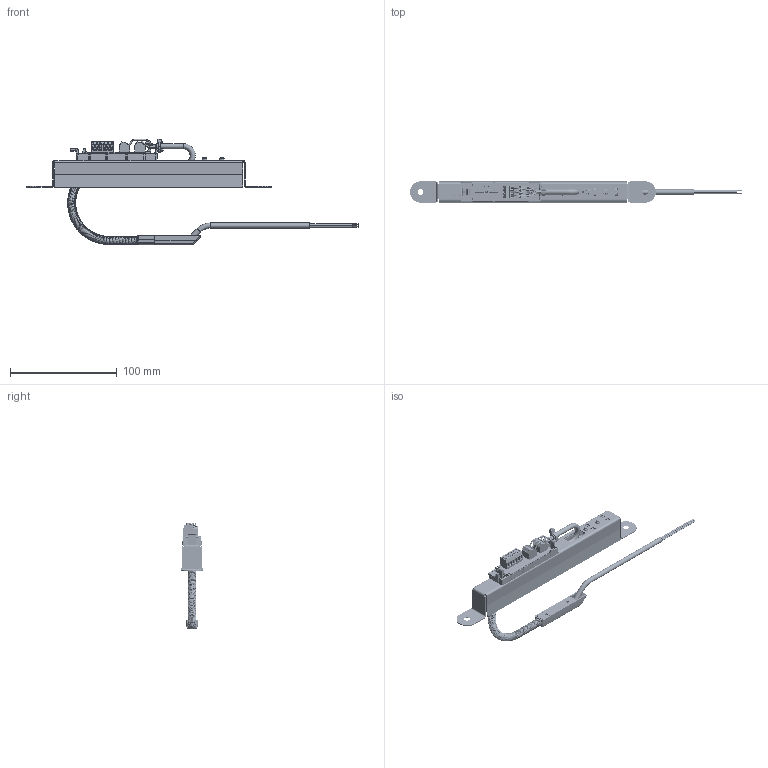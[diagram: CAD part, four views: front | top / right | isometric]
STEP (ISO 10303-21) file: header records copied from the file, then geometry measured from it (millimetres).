
FILE_DESCRIPTION(/* description */ (''),/* implementation_level */ '2;1');
FILE_NAME(/* name */ 'S:\Projekte\14-08_U_LINK_M1355\Zeichungen\Produkte und Anleitungen\Zeichnungen\M 13 55.stp',/* time_stamp */ '2014-04-01T08:25:26+02:00',/* author */ ('jsuarez'),/* organization */ (''),/* preprocessor_version */ 'ST-DEVELOPER v15.2',/* originating_system */ 'Autodesk Inventor 2014',/* authorisation */ '');
FILE_SCHEMA (('CONFIG_CONTROL_DESIGN'));
Products named in the file (1): M 13 55
Bounding box: 310.6 x 20.08 x 98.9 mm (x, y, z)
Volume: 39533.7 mm3; surface area: 65484 mm2
Topology: 7 solids, 9 shells, 2459 faces, 6545 edges, 4251 vertices
Faces by surface type: plane 1497, cylinder 423, bspline 386, cone 89, torus 54, sphere 10
Full cylindrical faces by diameter (mm): 0.7 x8, 0.9 x6, 1 x12, 1.2 x24, 1.5 x4, 1.6 x6, 1.8 x6, 2 x7, 2.4 x24, 2.459 x2, 2.5 x6, 2.693 x2, 2.8 x6, 3 x14, 3.2 x9, 3.6 x2, 4.5 x2, 4.9 x5, 5 x1, 5.5 x2, 6 x2, 6.2 x4
Entity records: 121410 total; most frequent: CARTESIAN_POINT 60649, ORIENTED_EDGE 12528, DIRECTION 10766, EDGE_CURVE 6264, VERTEX_POINT 4170, LINE 4096, VECTOR 4096, AXIS2_PLACEMENT_3D 3335
